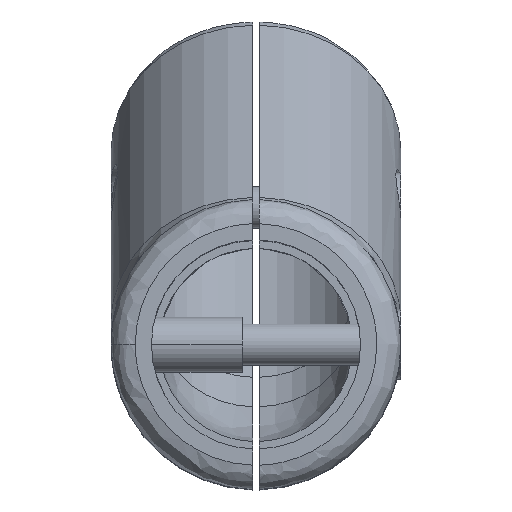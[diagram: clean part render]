
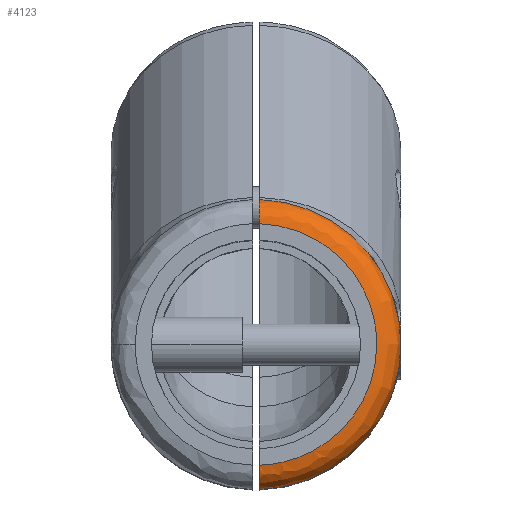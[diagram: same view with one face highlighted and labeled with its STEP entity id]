
A CAD part, top view. The second image highlights one B-rep face of the part: STEP entity #4123.
In plain terms, the highlighted free-form (B-spline) face has degree [3, 3] with [4, 4] control points.
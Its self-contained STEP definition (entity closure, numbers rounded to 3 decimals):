
#34 = EDGE_CURVE ( 'NONE', #4916, #5172, #3933, .T. ) ;
#155 =( BOUNDED_CURVE ( )  B_SPLINE_CURVE ( 3, ( #4691, #2670, #1009, #2635 ),
 .UNSPECIFIED., .F., .T. ) 
 B_SPLINE_CURVE_WITH_KNOTS ( ( 4, 4 ),
 ( 0., 1. ),
 .UNSPECIFIED. ) 
 CURVE ( )  GEOMETRIC_REPRESENTATION_ITEM ( )  RATIONAL_B_SPLINE_CURVE ( ( 1., 0.811, 0.811, 1. ) ) 
 REPRESENTATION_ITEM ( '' )  );
#168 = CARTESIAN_POINT ( 'NONE',  ( 0.5, 20.994, -3.269 ) ) ;
#188 = CARTESIAN_POINT ( 'NONE',  ( 0.5, 17.953, -0.023 ) ) ;
#226 = DIRECTION ( 'NONE',  ( 0., 0., -1. ) ) ;
#227 = CARTESIAN_POINT ( 'NONE',  ( 0.11, -21., -1.45 ) ) ;
#250 = CARTESIAN_POINT ( 'NONE',  ( 0.11, 21., -1.45 ) ) ;
#332 = CARTESIAN_POINT ( 'NONE',  ( 0.5, -19.245, -0.461 ) ) ;
#402 = EDGE_CURVE ( 'NONE', #4916, #1353, #3591, .T. ) ;
#533 = CARTESIAN_POINT ( 'NONE',  ( 10.516, 17.207, 0. ) ) ;
#600 = CARTESIAN_POINT ( 'NONE',  ( 41.673, -20.782, -3.5 ) ) ;
#608 = CARTESIAN_POINT ( 'NONE',  ( 0.5, 20.971, -3.042 ) ) ;
#630 = VERTEX_POINT ( 'NONE', #4435 ) ;
#758 = CARTESIAN_POINT ( 'NONE',  ( 0.5, -19.806, -0.863 ) ) ;
#778 = CARTESIAN_POINT ( 'NONE',  ( 0.5, -19.626, -0.715 ) ) ;
#844 = AXIS2_PLACEMENT_3D ( 'NONE', #1099, #226, #5101 ) ;
#953 = CARTESIAN_POINT ( 'NONE',  ( 0.5, 18.625, -0.18 ) ) ;
#971 = CARTESIAN_POINT ( 'NONE',  ( 0.5, 20.883, -2.594 ) ) ;
#990 = CARTESIAN_POINT ( 'NONE',  ( 0.092, 17.5, 0. ) ) ;
#1005 = CARTESIAN_POINT ( 'NONE',  ( 0.5, 20.815, -2.372 ) ) ;
#1009 = CARTESIAN_POINT ( 'NONE',  ( 10.516, -17.207, 0. ) ) ;
#1013 = CARTESIAN_POINT ( 'NONE',  ( 38.796, -19.347, 0. ) ) ;
#1076 = CARTESIAN_POINT ( 'NONE',  ( 0.5, -20.994, -3.5 ) ) ;
#1099 = CARTESIAN_POINT ( 'NONE',  ( 0., 0., -3.5 ) ) ;
#1145 = CARTESIAN_POINT ( 'NONE',  ( 0.5, -17.951, -0.023 ) ) ;
#1291 = CARTESIAN_POINT ( 'NONE',  ( 0.5, -17.493, 0. ) ) ;
#1353 = VERTEX_POINT ( 'NONE', #5066 ) ;
#1377 = CARTESIAN_POINT ( 'NONE',  ( 0.5, 19.808, -0.864 ) ) ;
#1436 = CARTESIAN_POINT ( 'NONE',  ( 0.092, -17.5, 0. ) ) ;
#1506 = B_SPLINE_CURVE_WITH_KNOTS ( 'NONE', 3,
 ( #4785, #5186, #1145, #5166, #3556, #3540, #332, #778, #758, #1546, #4366, #1969, #1563, #4768, #2359, #1985, #2376, #3593 ),
 .UNSPECIFIED., .F., .F.,
 ( 4, 2, 2, 2, 2, 2, 2, 2, 4 ),
 ( 0., 0.001, 0.001, 0.002, 0.003, 0.003, 0.004, 0.005, 0.005 ),
 .UNSPECIFIED. ) ;
#1546 = CARTESIAN_POINT ( 'NONE',  ( 0.5, -20.129, -1.185 ) ) ;
#1563 = CARTESIAN_POINT ( 'NONE',  ( 0.5, -20.639, -1.947 ) ) ;
#1823 = CARTESIAN_POINT ( 'NONE',  ( 0.5, 20.131, -1.187 ) ) ;
#1835 = CARTESIAN_POINT ( 'NONE',  ( 0.5, 19.632, -0.72 ) ) ;
#1860 = CARTESIAN_POINT ( 'NONE',  ( 0.11, 21., -3.5 ) ) ;
#1873 = CARTESIAN_POINT ( 'NONE',  ( 0.103, 19.55, 0. ) ) ;
#1969 = CARTESIAN_POINT ( 'NONE',  ( 0.5, -20.53, -1.744 ) ) ;
#1985 = CARTESIAN_POINT ( 'NONE',  ( 0.5, -20.971, -3.04 ) ) ;
#2122 = CARTESIAN_POINT ( 'NONE',  ( 0.5, 17.493, 0. ) ) ;
#2177 = CARTESIAN_POINT ( 'NONE',  ( 0.5, 17.724, 0. ) ) ;
#2226 = ORIENTED_EDGE ( 'NONE', *, *, #5034, .T. ) ;
#2235 = CARTESIAN_POINT ( 'NONE',  ( 0.5, 17.493, 0. ) ) ;
#2266 = CARTESIAN_POINT ( 'NONE',  ( 34.727, -17.318, 0. ) ) ;
#2356 = EDGE_CURVE ( 'NONE', #3807, #5172, #1506, .T. ) ;
#2359 = CARTESIAN_POINT ( 'NONE',  ( 0.5, -20.881, -2.588 ) ) ;
#2376 = CARTESIAN_POINT ( 'NONE',  ( 0.5, -20.994, -3.269 ) ) ;
#2581 = FACE_OUTER_BOUND ( 'NONE', #4055, .T. ) ;
#2607 = CARTESIAN_POINT ( 'NONE',  ( 41.673, 20.782, -3.5 ) ) ;
#2635 = CARTESIAN_POINT ( 'NONE',  ( 0.5, -17.493, 0. ) ) ;
#2670 = CARTESIAN_POINT ( 'NONE',  ( 17.5, -10.02, 0. ) ) ;
#3026 = CARTESIAN_POINT ( 'NONE',  ( 0.11, -21., -3.5 ) ) ;
#3073 = CARTESIAN_POINT ( 'NONE',  ( 34.727, 17.318, 0. ) ) ;
#3138 = CARTESIAN_POINT ( 'NONE',  ( 0.5, 20.994, -3.5 ) ) ;
#3212 =( BOUNDED_SURFACE ( )  B_SPLINE_SURFACE ( 3, 3, ( 
 ( #1860, #2607, #600, #3026 ),
 ( #250, #3456, #4205, #227 ),
 ( #1873, #4677, #1013, #5052 ),
 ( #990, #3073, #2266, #1436 ) ),
 .UNSPECIFIED., .F., .F., .F. ) 
 B_SPLINE_SURFACE_WITH_KNOTS ( ( 4, 4 ),
 ( 4, 4 ),
 ( 0., 1. ),
 ( 0., 1. ),
 .UNSPECIFIED. ) 
 GEOMETRIC_REPRESENTATION_ITEM ( )  RATIONAL_B_SPLINE_SURFACE ( (
 ( 1., 0.337, 0.337, 1.),
 ( 0.805, 0.271, 0.271, 0.805),
 ( 0.805, 0.271, 0.271, 0.805),
 ( 1., 0.337, 0.337, 1.) ) ) 
 REPRESENTATION_ITEM ( '' )  SURFACE ( )  );
#3366 = CARTESIAN_POINT ( 'NONE',  ( 0.5, 20.64, -1.949 ) ) ;
#3424 = ORIENTED_EDGE ( 'NONE', *, *, #3465, .T. ) ;
#3456 = CARTESIAN_POINT ( 'NONE',  ( 41.673, 20.782, -1.45 ) ) ;
#3465 = EDGE_CURVE ( 'NONE', #630, #3807, #155, .T. ) ;
#3540 = CARTESIAN_POINT ( 'NONE',  ( 0.5, -19.044, -0.354 ) ) ;
#3556 = CARTESIAN_POINT ( 'NONE',  ( 0.5, -18.621, -0.179 ) ) ;
#3591 = B_SPLINE_CURVE_WITH_KNOTS ( 'NONE', 3,
 ( #4231, #168, #608, #971, #1005, #3366, #4625, #3809, #1823, #1377, #1835, #4182, #4596, #953, #5010, #188, #2177, #2235 ),
 .UNSPECIFIED., .F., .F.,
 ( 4, 2, 2, 2, 2, 2, 2, 2, 4 ),
 ( 0., 0.001, 0.001, 0.002, 0.003, 0.003, 0.004, 0.005, 0.005 ),
 .UNSPECIFIED. ) ;
#3593 = CARTESIAN_POINT ( 'NONE',  ( 0.5, -20.994, -3.5 ) ) ;
#3807 = VERTEX_POINT ( 'NONE', #1291 ) ;
#3809 = CARTESIAN_POINT ( 'NONE',  ( 0.5, 20.278, -1.367 ) ) ;
#3933 = CIRCLE ( 'NONE', #844, 21. ) ;
#4055 = EDGE_LOOP ( 'NONE', ( #5148, #2226, #3424, #4562, #5003 ) ) ;
#4123 = ADVANCED_FACE ( 'NONE', ( #2581 ), #3212, .T. ) ;
#4141 = CARTESIAN_POINT ( 'NONE',  ( 17.5, 10.02, 0. ) ) ;
#4182 = CARTESIAN_POINT ( 'NONE',  ( 0.5, 19.249, -0.464 ) ) ;
#4205 = CARTESIAN_POINT ( 'NONE',  ( 41.673, -20.782, -1.45 ) ) ;
#4231 = CARTESIAN_POINT ( 'NONE',  ( 0.5, 20.994, -3.5 ) ) ;
#4366 = CARTESIAN_POINT ( 'NONE',  ( 0.5, -20.274, -1.361 ) ) ;
#4435 = CARTESIAN_POINT ( 'NONE',  ( 17.5, 0., 0. ) ) ;
#4562 = ORIENTED_EDGE ( 'NONE', *, *, #2356, .T. ) ;
#4596 = CARTESIAN_POINT ( 'NONE',  ( 0.5, 19.046, -0.355 ) ) ;
#4625 = CARTESIAN_POINT ( 'NONE',  ( 0.5, 20.532, -1.748 ) ) ;
#4677 = CARTESIAN_POINT ( 'NONE',  ( 38.796, 19.347, 0. ) ) ;
#4691 = CARTESIAN_POINT ( 'NONE',  ( 17.5, 0., 0. ) ) ;
#4768 = CARTESIAN_POINT ( 'NONE',  ( 0.5, -20.814, -2.368 ) ) ;
#4785 = CARTESIAN_POINT ( 'NONE',  ( 0.5, -17.493, 0. ) ) ;
#4916 = VERTEX_POINT ( 'NONE', #3138 ) ;
#4952 = CARTESIAN_POINT ( 'NONE',  ( 17.5, 0., 0. ) ) ;
#5003 = ORIENTED_EDGE ( 'NONE', *, *, #34, .F. ) ;
#5010 = CARTESIAN_POINT ( 'NONE',  ( 0.5, 18.405, -0.113 ) ) ;
#5034 = EDGE_CURVE ( 'NONE', #1353, #630, #5139, .T. ) ;
#5052 = CARTESIAN_POINT ( 'NONE',  ( 0.103, -19.55, 0. ) ) ;
#5066 = CARTESIAN_POINT ( 'NONE',  ( 0.5, 17.493, 0. ) ) ;
#5101 = DIRECTION ( 'NONE',  ( 0., 1., 0. ) ) ;
#5139 =( BOUNDED_CURVE ( )  B_SPLINE_CURVE ( 3, ( #2122, #533, #4141, #4952 ),
 .UNSPECIFIED., .F., .T. ) 
 B_SPLINE_CURVE_WITH_KNOTS ( ( 4, 4 ),
 ( 0., 1. ),
 .UNSPECIFIED. ) 
 CURVE ( )  GEOMETRIC_REPRESENTATION_ITEM ( )  RATIONAL_B_SPLINE_CURVE ( ( 1., 0.811, 0.811, 1. ) ) 
 REPRESENTATION_ITEM ( '' )  );
#5148 = ORIENTED_EDGE ( 'NONE', *, *, #402, .T. ) ;
#5166 = CARTESIAN_POINT ( 'NONE',  ( 0.5, -18.398, -0.111 ) ) ;
#5172 = VERTEX_POINT ( 'NONE', #1076 ) ;
#5186 = CARTESIAN_POINT ( 'NONE',  ( 0.5, -17.724, 0. ) ) ;
